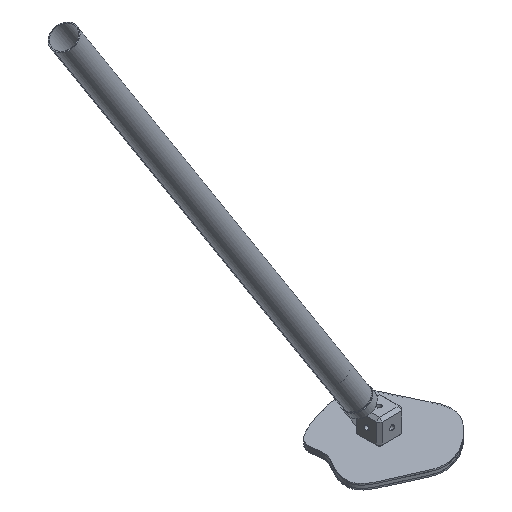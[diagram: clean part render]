
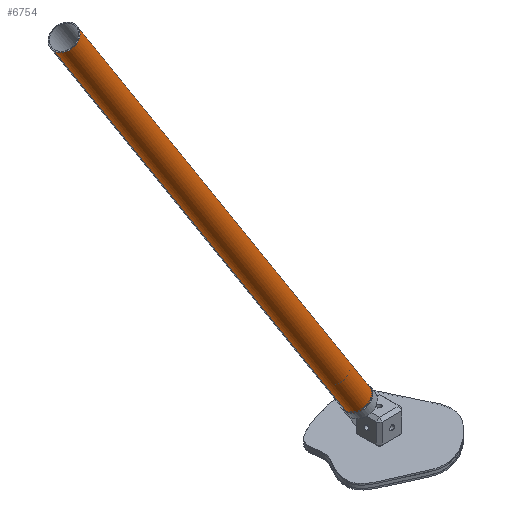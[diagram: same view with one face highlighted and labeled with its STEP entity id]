
A CAD part, isometric view. The second image highlights one B-rep face of the part: STEP entity #6754.
In plain terms, the highlighted cylindrical face has radius 13.716 mm (diameter 27.432 mm), a partial arc.
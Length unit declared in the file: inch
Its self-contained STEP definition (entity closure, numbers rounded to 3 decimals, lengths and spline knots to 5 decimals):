
#123 = DIRECTION ( 'NONE',  ( 1., 0., 0. ) ) ;
#792 = DIRECTION ( 'NONE',  ( 1., 0., 0. ) ) ;
#953 = FACE_OUTER_BOUND ( 'NONE', #4371, .T. ) ;
#1789 = ORIENTED_EDGE ( 'NONE', *, *, #2038, .F. ) ;
#1828 = CARTESIAN_POINT ( 'NONE',  ( -24., 0., -0.54 ) ) ;
#1966 = VERTEX_POINT ( 'NONE', #1828 ) ;
#2038 = EDGE_CURVE ( 'NONE', #4870, #5833, #8849, .T. ) ;
#2193 = AXIS2_PLACEMENT_3D ( 'NONE', #4434, #9886, #5204 ) ;
#2750 = AXIS2_PLACEMENT_3D ( 'NONE', #5474, #792, #6266 ) ;
#2936 = CARTESIAN_POINT ( 'NONE',  ( -24., 0., 0. ) ) ;
#3266 = AXIS2_PLACEMENT_3D ( 'NONE', #2936, #8410, #3711 ) ;
#3282 = ORIENTED_EDGE ( 'NONE', *, *, #8272, .T. ) ;
#3711 = DIRECTION ( 'NONE',  ( 0., 0., -1. ) ) ;
#3745 = CARTESIAN_POINT ( 'NONE',  ( 0., 0., 0.54 ) ) ;
#3859 = VECTOR ( 'NONE', #6961, 39.37008 ) ;
#4111 = LINE ( 'NONE', #8518, #3859 ) ;
#4368 = ORIENTED_EDGE ( 'NONE', *, *, #8610, .F. ) ;
#4371 = EDGE_LOOP ( 'NONE', ( #4368, #3282, #6372, #1789 ) ) ;
#4434 = CARTESIAN_POINT ( 'NONE',  ( 0., 0., 0. ) ) ;
#4870 = VERTEX_POINT ( 'NONE', #3745 ) ;
#5204 = DIRECTION ( 'NONE',  ( 0., 0., -1. ) ) ;
#5463 = CARTESIAN_POINT ( 'NONE',  ( 0., 0., -0.54 ) ) ;
#5474 = CARTESIAN_POINT ( 'NONE',  ( 0., 0., 0. ) ) ;
#5731 = CIRCLE ( 'NONE', #3266, 0.54 ) ;
#5833 = VERTEX_POINT ( 'NONE', #5463 ) ;
#6266 = DIRECTION ( 'NONE',  ( 0., 0., -1. ) ) ;
#6372 = ORIENTED_EDGE ( 'NONE', *, *, #8014, .T. ) ;
#6689 = VECTOR ( 'NONE', #123, 39.37008 ) ;
#6754 = ADVANCED_FACE ( 'NONE', ( #953 ), #6938, .T. ) ;
#6934 = CARTESIAN_POINT ( 'NONE',  ( -24., 0., 0.54 ) ) ;
#6938 = CYLINDRICAL_SURFACE ( 'NONE', #2750, 0.54 ) ;
#6961 = DIRECTION ( 'NONE',  ( 1., 0., 0. ) ) ;
#7118 = VERTEX_POINT ( 'NONE', #6934 ) ;
#7128 = CARTESIAN_POINT ( 'NONE',  ( 0., 0., 0.54 ) ) ;
#7189 = LINE ( 'NONE', #7128, #6689 ) ;
#8014 = EDGE_CURVE ( 'NONE', #1966, #5833, #4111, .T. ) ;
#8272 = EDGE_CURVE ( 'NONE', #7118, #1966, #5731, .T. ) ;
#8410 = DIRECTION ( 'NONE',  ( 1., 0., 0. ) ) ;
#8518 = CARTESIAN_POINT ( 'NONE',  ( 0., 0., -0.54 ) ) ;
#8610 = EDGE_CURVE ( 'NONE', #7118, #4870, #7189, .T. ) ;
#8849 = CIRCLE ( 'NONE', #2193, 0.54 ) ;
#9886 = DIRECTION ( 'NONE',  ( 1., 0., 0. ) ) ;
